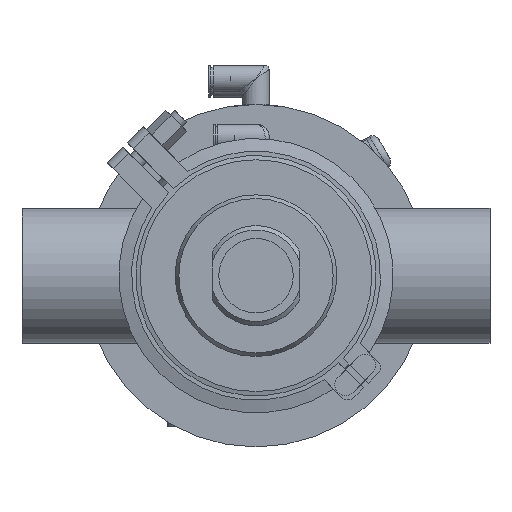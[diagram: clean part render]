
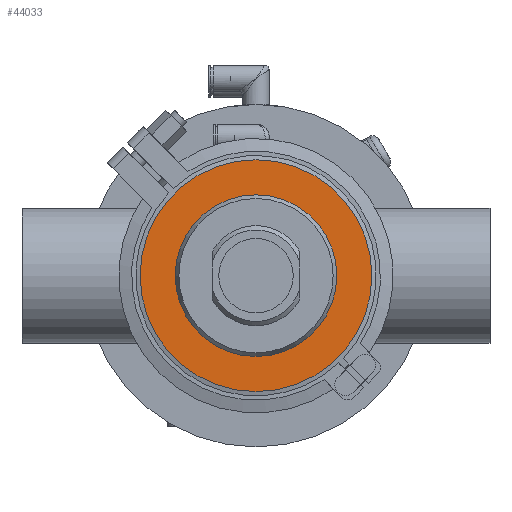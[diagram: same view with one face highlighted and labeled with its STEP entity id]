
A CAD part, front view. The second image highlights one B-rep face of the part: STEP entity #44033.
In plain terms, the highlighted planar face has unit normal (0, -1, 0).
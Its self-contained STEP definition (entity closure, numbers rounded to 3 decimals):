
#1352 = PLANE ( 'NONE',  #16887 ) ;
#6893 = EDGE_CURVE ( 'NONE', #56866, #56866, #11813, .T. ) ;
#7105 = ORIENTED_EDGE ( 'NONE', *, *, #6893, .F. ) ;
#10642 = AXIS2_PLACEMENT_3D ( 'NONE', #11362, #54880, #50380 ) ;
#10689 = CIRCLE ( 'NONE', #10642, 38. ) ;
#11344 = ORIENTED_EDGE ( 'NONE', *, *, #60107, .T. ) ;
#11362 = CARTESIAN_POINT ( 'NONE',  ( 0., -13., 0. ) ) ;
#11646 = DIRECTION ( 'NONE',  ( 0., 0., 1. ) ) ;
#11678 = AXIS2_PLACEMENT_3D ( 'NONE', #41341, #11969, #11646 ) ;
#11813 = CIRCLE ( 'NONE', #11678, 54.5 ) ;
#11969 = DIRECTION ( 'NONE',  ( 0., 1., 0. ) ) ;
#13058 = CARTESIAN_POINT ( 'NONE',  ( 0., -13., 54.5 ) ) ;
#16887 = AXIS2_PLACEMENT_3D ( 'NONE', #31426, #47924, #57557 ) ;
#31426 = CARTESIAN_POINT ( 'NONE',  ( -54.5, -13., 0. ) ) ;
#32782 = CARTESIAN_POINT ( 'NONE',  ( 0., -13., 38. ) ) ;
#39083 = EDGE_LOOP ( 'NONE', ( #11344 ) ) ;
#39545 = EDGE_LOOP ( 'NONE', ( #7105 ) ) ;
#41341 = CARTESIAN_POINT ( 'NONE',  ( 0., -13., 0. ) ) ;
#42011 = VERTEX_POINT ( 'NONE', #32782 ) ;
#44033 = ADVANCED_FACE ( 'NONE', ( #59615, #59940 ), #1352, .T. ) ;
#47924 = DIRECTION ( 'NONE',  ( 0., -1., 0. ) ) ;
#50380 = DIRECTION ( 'NONE',  ( 0., 0., 1. ) ) ;
#54880 = DIRECTION ( 'NONE',  ( 0., 1., 0. ) ) ;
#56866 = VERTEX_POINT ( 'NONE', #13058 ) ;
#57557 = DIRECTION ( 'NONE',  ( 0., 0., -1. ) ) ;
#59615 = FACE_BOUND ( 'NONE', #39083, .T. ) ;
#59940 = FACE_OUTER_BOUND ( 'NONE', #39545, .T. ) ;
#60107 = EDGE_CURVE ( 'NONE', #42011, #42011, #10689, .T. ) ;
